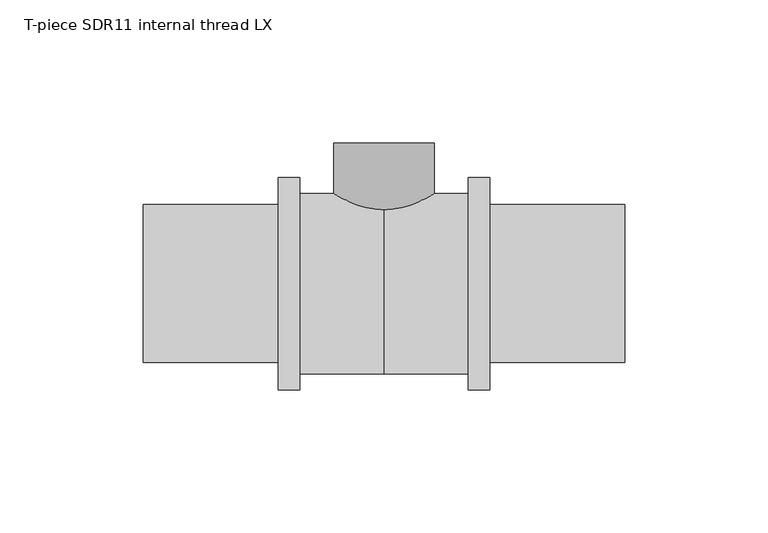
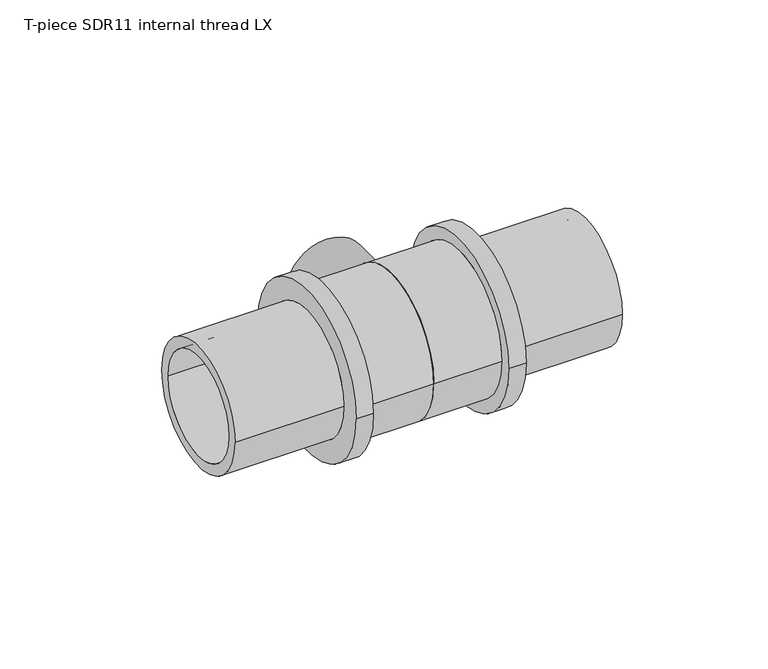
"""IFC4 building model written with IfcOpenShell, lengths in millimetres: pipe fitting geometry, T-piece SDR11 internal thread LX : T-piece LX SDR11 internal LX."""

from ifc_helpers import new_model, si_unit, point, frame, origin, place, context, project, spatial, polyline, circle_curve, ellipse_curve, trimmed, source, transform, mapped, element, save
from ifc_brep_helpers import plane_surface, cylinder_surface, revolved_surface, advanced_brep


def t_piece_sdr11_internal_thread_lx_a8ee94a1(model_context):
    return source(origin(), model_context, "Body", "AdvancedBrep", [
        advanced_brep(
        [(12.5, 12.0, 0.0), (-12.5, 12.0, 0.0), (-12.5, 49.0, 0.0), (12.5, 49.0, 0.0), (0.5, 0.0, 0.0), (-0.5, 0.0, 0.0), (16.7683856, 9.1973178, 0.0), (-16.7683856, 9.1973178, 0.0), (-7.5710678, 0.0, 0.0), (7.5710678, 0.0, 0.0), (17.5, 10.9635912, 0.0), (-17.5, 10.9635912, 0.0), (17.5, 49.0, 0.0), (-17.5, 49.0, 0.0)],
        [
            (0, 1, circle_curve(frame((0.0, 12.0, 0.0), z_axis=(0.0, -1.0, 0.0), x_axis=(-1.0, 0.0, 0.0)), 12.5)),
            (1, 2),
            (2, 3, circle_curve(frame((0.0, 49.0, 0.0), z_axis=(0.0, 1.0, 0.0), x_axis=(-1.0, 0.0, 0.0)), 12.5)),
            (3, 0),
            (4, 5, circle_curve(frame((0.0, 0.0, 0.0), z_axis=(0.0, -1.0, 0.0), x_axis=(-1.0, 0.0, 0.0)), 0.5)),
            (5, 1),
            (0, 4),
            (6, 7, circle_curve(frame((0.0, 9.1973178, 0.0), z_axis=(0.0, -1.0, 0.0), x_axis=(-1.0, 0.0, 0.0)), 16.7683856)),
            (7, 8),
            (8, 9, circle_curve(frame((0.0, 0.0, 0.0), z_axis=(0.0, 1.0, 0.0), x_axis=(-1.0, 0.0, 0.0)), 7.5710678)),
            (9, 6),
            (10, 11, circle_curve(frame((0.0, 10.9635912, 0.0), z_axis=(0.0, -1.0, 0.0), x_axis=(-1.0, 0.0, 0.0)), 17.5)),
            (11, 7, circle_curve(frame((-12.5, 12.0, 0.0), z_axis=(0.0, 0.0, 1.0), x_axis=(0.0, 1.0, 0.0)), 5.1062847)),
            (6, 10, circle_curve(frame((12.5, 12.0, 0.0), z_axis=(0.0, 0.0, 1.0), x_axis=(0.0, 1.0, 0.0)), 5.1062847)),
            (12, 13, circle_curve(frame((0.0, 49.0, 0.0), z_axis=(0.0, -1.0, 0.0), x_axis=(-1.0, 0.0, 0.0)), 17.5)),
            (13, 11),
            (10, 12),
            (12, 13, circle_curve(frame((0.0, 49.0, 0.0), z_axis=(0.0, 1.0, 0.0), x_axis=(1.0, 0.0, 0.0)), 17.5)),
            (2, 3, circle_curve(frame((0.0, 49.0, 0.0), z_axis=(0.0, -1.0, 0.0), x_axis=(1.0, 0.0, 0.0)), 12.5)),
            (1, 0, circle_curve(frame((0.0, 12.0, 0.0), z_axis=(0.0, -1.0, 0.0), x_axis=(1.0, 0.0, 0.0)), 12.5)),
            (5, 4, circle_curve(frame((0.0, 0.0, 0.0), z_axis=(0.0, -1.0, 0.0), x_axis=(1.0, 0.0, 0.0)), 0.5)),
            (8, 9, circle_curve(frame((0.0, 0.0, 0.0), z_axis=(0.0, -1.0, 0.0), x_axis=(1.0, 0.0, 0.0)), 7.5710678)),
            (7, 6, circle_curve(frame((0.0, 9.1973178, 0.0), z_axis=(0.0, -1.0, 0.0), x_axis=(1.0, 0.0, 0.0)), 16.7683856)),
            (11, 10, circle_curve(frame((0.0, 10.9635912, 0.0), z_axis=(0.0, -1.0, 0.0), x_axis=(1.0, 0.0, 0.0)), 17.5)),
        ],
        [
            revolved_surface(polyline([(-12.5, 49.0, 0.0), (-12.5, 12.0, 0.0)]), (0.0, 0.0, 0.0), (0.0, 1.0, 0.0)),
            revolved_surface(polyline([(-12.5, 12.0, 0.0), (-0.5, 0.0, 0.0)]), (0.0, 0.0, 0.0), (0.0, 1.0, 0.0)),
            revolved_surface(polyline([(-7.5710678, 0.0, 0.0), (-16.7683856, 9.1973178, 0.0)]), (0.0, 0.0, 0.0), (0.0, 1.0, 0.0)),
            revolved_surface(trimmed(ellipse_curve(frame((-12.5, 12.0, 0.0), z_axis=(0.0, 0.0, -1.0), x_axis=(0.0, 1.0, 0.0)), 5.1062847, 5.1062847), [point((-16.7683856, 9.1973178, 0.0))], [point((-17.5, 10.9635912, 0.0))], True, "CARTESIAN"), (0.0, 0.0, 0.0), (0.0, 1.0, 0.0)),
            cylinder_surface(frame((0.0, 0.0, 0.0), z_axis=(0.0, 1.0, 0.0), x_axis=(-1.0, 0.0, 0.0)), 17.5),
            plane_surface(frame((0.0, 49.0, 0.0), z_axis=(0.0, 1.0, 0.0), x_axis=(1.0, 0.0, 0.0))),
            revolved_surface(polyline([(12.5, 49.0, 0.0), (12.5, 12.0, 0.0)]), (0.0, 0.0, 0.0), (0.0, 1.0, 0.0)),
            revolved_surface(polyline([(12.5, 12.0, 0.0), (0.5, 0.0, 0.0)]), (0.0, 0.0, 0.0), (0.0, 1.0, 0.0)),
            plane_surface(frame((0.0, 0.0, 0.0), z_axis=(0.0, -1.0, 0.0), x_axis=(1.0, 0.0, 0.0))),
            revolved_surface(polyline([(7.5710678, 0.0, 0.0), (16.7683856, 9.1973178, 0.0)]), (0.0, 0.0, 0.0), (0.0, 1.0, 0.0)),
            revolved_surface(trimmed(ellipse_curve(frame((12.5, 12.0, 0.0), z_axis=(0.0, 0.0, 1.0), x_axis=(0.0, 1.0, 0.0)), 5.1062847, 5.1062847), [point((16.7683856, 9.1973178, 0.0))], [point((17.5, 10.9635912, 0.0))], True, "CARTESIAN"), (0.0, 0.0, 0.0), (0.0, 1.0, 0.0)),
            cylinder_surface(frame((0.0, 0.0, 0.0), z_axis=(0.0, 1.0, 0.0), x_axis=(1.0, 0.0, 0.0)), 17.5),
        ],
        [
            (0, [[1, 2, 3, 4]]),
            (1, [[5, 6, -1, 7]]),
            (2, [[8, 9, 10, 11]]),
            (3, [[12, 13, -8, 14]]),
            (4, [[15, 16, -12, 17]]),
            (5, [[18, -15], [19, -3]]),
            (6, [[20, -4, -19, -2]]),
            (7, [[21, -7, -20, -6]]),
            (8, [[22, -10], [-21, -5]]),
            (9, [[23, -11, -22, -9]]),
            (10, [[24, -14, -23, -13]]),
            (11, [[-18, -17, -24, -16]]),
        ],
    ),
        advanced_brep(
        [(36.8, 37.0, 0.0), (36.8, -37.0, 0.0), (29.4, -37.0, 0.0), (29.4, 37.0, 0.0), (83.9, 27.55, 0.0), (83.9, -27.55, 0.0), (36.8, -27.55, 0.0), (36.8, 27.55, 0.0), (0.0, 22.75, 0.0), (0.0, -22.75, 0.0), (83.9, -22.75, 0.0), (83.9, 22.75, 0.0), (29.4, 31.5, 0.0), (29.4, -31.5, 0.0), (0.0, -31.5, 0.0), (0.0, 31.5, 0.0)],
        [
            (0, 1, circle_curve(frame((36.8, 0.0, 0.0), z_axis=(-1.0, 0.0, 0.0), x_axis=(0.0, -1.0, 0.0)), 37.0)),
            (1, 2),
            (2, 3, circle_curve(frame((29.4, 0.0, 0.0), z_axis=(1.0, 0.0, 0.0), x_axis=(0.0, -1.0, 0.0)), 37.0)),
            (3, 0),
            (4, 5, circle_curve(frame((83.9, 0.0, 0.0), z_axis=(-1.0, 0.0, 0.0), x_axis=(0.0, -1.0, 0.0)), 27.55)),
            (5, 6),
            (6, 7, circle_curve(frame((36.8, 0.0, 0.0), z_axis=(1.0, 0.0, 0.0), x_axis=(0.0, -1.0, 0.0)), 27.55)),
            (7, 4),
            (8, 9, circle_curve(frame((0.0, 0.0, 0.0), z_axis=(-1.0, 0.0, 0.0), x_axis=(0.0, -1.0, 0.0)), 22.75)),
            (9, 10),
            (10, 11, circle_curve(frame((83.9, 0.0, 0.0), z_axis=(1.0, 0.0, 0.0), x_axis=(0.0, -1.0, 0.0)), 22.75)),
            (11, 8),
            (12, 13, circle_curve(frame((29.4, 0.0, 0.0), z_axis=(-1.0, 0.0, 0.0), x_axis=(0.0, -1.0, 0.0)), 31.5)),
            (13, 14),
            (14, 15, circle_curve(frame((0.0, 0.0, 0.0), z_axis=(1.0, 0.0, 0.0), x_axis=(0.0, -1.0, 0.0)), 31.5)),
            (15, 12),
            (1, 0, circle_curve(frame((36.8, 0.0, 0.0), z_axis=(-1.0, 0.0, 0.0), x_axis=(0.0, 1.0, 0.0)), 37.0)),
            (3, 2, circle_curve(frame((29.4, 0.0, 0.0), z_axis=(1.0, 0.0, 0.0), x_axis=(0.0, 1.0, 0.0)), 37.0)),
            (6, 7, circle_curve(frame((36.8, 0.0, 0.0), z_axis=(-1.0, 0.0, 0.0), x_axis=(0.0, 1.0, 0.0)), 27.55)),
            (5, 4, circle_curve(frame((83.9, 0.0, 0.0), z_axis=(-1.0, 0.0, 0.0), x_axis=(0.0, 1.0, 0.0)), 27.55)),
            (10, 11, circle_curve(frame((83.9, 0.0, 0.0), z_axis=(-1.0, 0.0, 0.0), x_axis=(0.0, 1.0, 0.0)), 22.75)),
            (9, 8, circle_curve(frame((0.0, 0.0, 0.0), z_axis=(-1.0, 0.0, 0.0), x_axis=(0.0, 1.0, 0.0)), 22.75)),
            (14, 15, circle_curve(frame((0.0, 0.0, 0.0), z_axis=(-1.0, 0.0, 0.0), x_axis=(0.0, 1.0, 0.0)), 31.5)),
            (13, 12, circle_curve(frame((29.4, 0.0, 0.0), z_axis=(-1.0, 0.0, 0.0), x_axis=(0.0, 1.0, 0.0)), 31.5)),
        ],
        [
            cylinder_surface(frame((0.0, 0.0, 0.0), z_axis=(1.0, 0.0, 0.0), x_axis=(0.0, -1.0, 0.0)), 37.0),
            cylinder_surface(frame((0.0, 0.0, 0.0), z_axis=(1.0, 0.0, 0.0), x_axis=(0.0, -1.0, 0.0)), 27.55),
            revolved_surface(polyline([(83.9, -22.75, 0.0), (0.0, -22.75, 0.0)]), (0.0, 0.0, 0.0), (1.0, 0.0, 0.0)),
            cylinder_surface(frame((0.0, 0.0, 0.0), z_axis=(1.0, 0.0, 0.0), x_axis=(0.0, -1.0, 0.0)), 31.5),
            cylinder_surface(frame((0.0, 0.0, 0.0), z_axis=(1.0, 0.0, 0.0), x_axis=(0.0, 1.0, 0.0)), 37.0),
            plane_surface(frame((36.8, 0.0, 0.0), z_axis=(1.0, 0.0, 0.0), x_axis=(0.0, 1.0, 0.0))),
            cylinder_surface(frame((0.0, 0.0, 0.0), z_axis=(1.0, 0.0, 0.0), x_axis=(0.0, 1.0, 0.0)), 27.55),
            plane_surface(frame((83.9, 0.0, 0.0), z_axis=(1.0, 0.0, 0.0), x_axis=(0.0, 1.0, 0.0))),
            revolved_surface(polyline([(83.9, 22.75, 0.0), (0.0, 22.75, 0.0)]), (0.0, 0.0, 0.0), (1.0, 0.0, 0.0)),
            plane_surface(frame((0.0, 0.0, 0.0), z_axis=(-1.0, 0.0, 0.0), x_axis=(0.0, 1.0, 0.0))),
            cylinder_surface(frame((0.0, 0.0, 0.0), z_axis=(1.0, 0.0, 0.0), x_axis=(0.0, 1.0, 0.0)), 31.5),
            plane_surface(frame((29.4, 0.0, 0.0), z_axis=(-1.0, 0.0, 0.0), x_axis=(0.0, 1.0, 0.0))),
        ],
        [
            (0, [[1, 2, 3, 4]]),
            (1, [[5, 6, 7, 8]]),
            (2, [[9, 10, 11, 12]]),
            (3, [[13, 14, 15, 16]]),
            (4, [[17, -4, 18, -2]]),
            (5, [[-17, -1], [19, -7]]),
            (6, [[20, -8, -19, -6]]),
            (7, [[-20, -5], [21, -11]]),
            (8, [[22, -12, -21, -10]]),
            (9, [[23, -15], [-22, -9]]),
            (10, [[24, -16, -23, -14]]),
            (11, [[-18, -3], [-24, -13]]),
        ],
    ),
        advanced_brep(
        [(0.0, 31.5, 0.0), (0.0, -31.5, 0.0), (-29.4, -31.5, 0.0), (-29.4, 31.5, 0.0), (-83.9, 22.75, 0.0), (-83.9, -22.75, 0.0), (0.0, -22.75, 0.0), (0.0, 22.75, 0.0), (-36.8, 27.55, 0.0), (-36.8, -27.55, 0.0), (-83.9, -27.55, 0.0), (-83.9, 27.55, 0.0), (-29.4, 37.0, 0.0), (-29.4, -37.0, 0.0), (-36.8, -37.0, 0.0), (-36.8, 37.0, 0.0)],
        [
            (0, 1, circle_curve(frame((0.0, 0.0, 0.0), z_axis=(-1.0, 0.0, 0.0), x_axis=(0.0, -1.0, 0.0)), 31.5)),
            (1, 2),
            (2, 3, circle_curve(frame((-29.4, 0.0, 0.0), z_axis=(1.0, 0.0, 0.0), x_axis=(0.0, -1.0, 0.0)), 31.5)),
            (3, 0),
            (4, 5, circle_curve(frame((-83.9, 0.0, 0.0), z_axis=(-1.0, 0.0, 0.0), x_axis=(0.0, -1.0, 0.0)), 22.75)),
            (5, 6),
            (6, 7, circle_curve(frame((0.0, 0.0, 0.0), z_axis=(1.0, 0.0, 0.0), x_axis=(0.0, -1.0, 0.0)), 22.75)),
            (7, 4),
            (8, 9, circle_curve(frame((-36.8, 0.0, 0.0), z_axis=(-1.0, 0.0, 0.0), x_axis=(0.0, -1.0, 0.0)), 27.55)),
            (9, 10),
            (10, 11, circle_curve(frame((-83.9, 0.0, 0.0), z_axis=(1.0, 0.0, 0.0), x_axis=(0.0, -1.0, 0.0)), 27.55)),
            (11, 8),
            (12, 13, circle_curve(frame((-29.4, 0.0, 0.0), z_axis=(-1.0, 0.0, 0.0), x_axis=(0.0, -1.0, 0.0)), 37.0)),
            (13, 14),
            (14, 15, circle_curve(frame((-36.8, 0.0, 0.0), z_axis=(1.0, 0.0, 0.0), x_axis=(0.0, -1.0, 0.0)), 37.0)),
            (15, 12),
            (12, 13, circle_curve(frame((-29.4, 0.0, 0.0), z_axis=(1.0, 0.0, 0.0), x_axis=(0.0, 1.0, 0.0)), 37.0)),
            (2, 3, circle_curve(frame((-29.4, 0.0, 0.0), z_axis=(-1.0, 0.0, 0.0), x_axis=(0.0, 1.0, 0.0)), 31.5)),
            (1, 0, circle_curve(frame((0.0, 0.0, 0.0), z_axis=(-1.0, 0.0, 0.0), x_axis=(0.0, 1.0, 0.0)), 31.5)),
            (6, 7, circle_curve(frame((0.0, 0.0, 0.0), z_axis=(-1.0, 0.0, 0.0), x_axis=(0.0, 1.0, 0.0)), 22.75)),
            (5, 4, circle_curve(frame((-83.9, 0.0, 0.0), z_axis=(-1.0, 0.0, 0.0), x_axis=(0.0, 1.0, 0.0)), 22.75)),
            (10, 11, circle_curve(frame((-83.9, 0.0, 0.0), z_axis=(-1.0, 0.0, 0.0), x_axis=(0.0, 1.0, 0.0)), 27.55)),
            (9, 8, circle_curve(frame((-36.8, 0.0, 0.0), z_axis=(-1.0, 0.0, 0.0), x_axis=(0.0, 1.0, 0.0)), 27.55)),
            (14, 15, circle_curve(frame((-36.8, 0.0, 0.0), z_axis=(-1.0, 0.0, 0.0), x_axis=(0.0, 1.0, 0.0)), 37.0)),
        ],
        [
            cylinder_surface(frame((0.0, 0.0, 0.0), z_axis=(1.0, 0.0, 0.0), x_axis=(0.0, -1.0, 0.0)), 31.5),
            revolved_surface(polyline([(0.0, -22.75, 0.0), (-83.9, -22.75, 0.0)]), (0.0, 0.0, 0.0), (1.0, 0.0, 0.0)),
            cylinder_surface(frame((0.0, 0.0, 0.0), z_axis=(1.0, 0.0, 0.0), x_axis=(0.0, -1.0, 0.0)), 27.55),
            cylinder_surface(frame((0.0, 0.0, 0.0), z_axis=(1.0, 0.0, 0.0), x_axis=(0.0, -1.0, 0.0)), 37.0),
            plane_surface(frame((-29.4, 0.0, 0.0), z_axis=(1.0, 0.0, 0.0), x_axis=(0.0, 1.0, 0.0))),
            cylinder_surface(frame((0.0, 0.0, 0.0), z_axis=(1.0, 0.0, 0.0), x_axis=(0.0, 1.0, 0.0)), 31.5),
            plane_surface(frame((0.0, 0.0, 0.0), z_axis=(1.0, 0.0, 0.0), x_axis=(0.0, 1.0, 0.0))),
            revolved_surface(polyline([(0.0, 22.75, 0.0), (-83.9, 22.75, 0.0)]), (0.0, 0.0, 0.0), (1.0, 0.0, 0.0)),
            plane_surface(frame((-83.9, 0.0, 0.0), z_axis=(-1.0, 0.0, 0.0), x_axis=(0.0, 1.0, 0.0))),
            cylinder_surface(frame((0.0, 0.0, 0.0), z_axis=(1.0, 0.0, 0.0), x_axis=(0.0, 1.0, 0.0)), 27.55),
            plane_surface(frame((-36.8, 0.0, 0.0), z_axis=(-1.0, 0.0, 0.0), x_axis=(0.0, 1.0, 0.0))),
            cylinder_surface(frame((0.0, 0.0, 0.0), z_axis=(1.0, 0.0, 0.0), x_axis=(0.0, 1.0, 0.0)), 37.0),
        ],
        [
            (0, [[1, 2, 3, 4]]),
            (1, [[5, 6, 7, 8]]),
            (2, [[9, 10, 11, 12]]),
            (3, [[13, 14, 15, 16]]),
            (4, [[17, -13], [18, -3]]),
            (5, [[19, -4, -18, -2]]),
            (6, [[-19, -1], [20, -7]]),
            (7, [[21, -8, -20, -6]]),
            (8, [[22, -11], [-21, -5]]),
            (9, [[23, -12, -22, -10]]),
            (10, [[24, -15], [-23, -9]]),
            (11, [[-17, -16, -24, -14]]),
        ],
    ),
    ])


if __name__ == "__main__":
    model = new_model("IFC4")
    model_context = context("Model", 3, world=origin())
    ifc_project = project(units=[si_unit("LENGTHUNIT", "METRE", prefix="MILLI")], contexts=[model_context])
    site = spatial("IfcSite", under=ifc_project)
    building = spatial("IfcBuilding", under=site)
    placement = place(None, origin())
    t_piece_sdr11_internal_thread_lx_shape = t_piece_sdr11_internal_thread_lx_a8ee94a1(model_context)
    element("IfcPipeFitting", 1, ObjectType="T-piece SDR11 internal thread LX : T-piece LX SDR11 internal LX", at=placement, inside=building, context=model_context, shape_type="MappedRepresentation", body=[
        mapped(t_piece_sdr11_internal_thread_lx_shape, transform((0.0, 0.0, 0.0), x_axis=(1.0, 0.0, 0.0), y_axis=(0.0, 1.0, 0.0), z_axis=(0.0, 0.0, 1.0))),
    ])
    save(model, "model.ifc")
